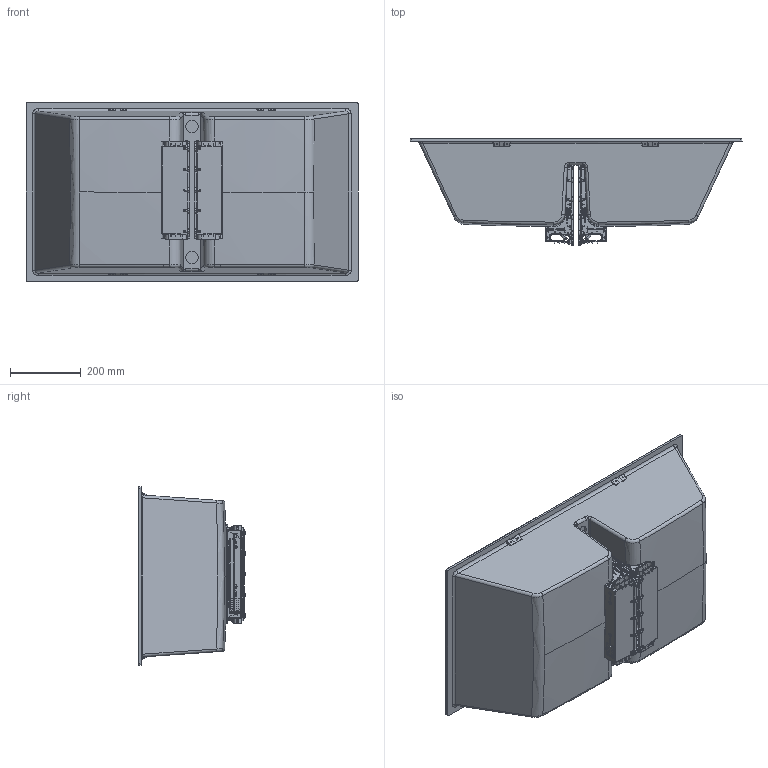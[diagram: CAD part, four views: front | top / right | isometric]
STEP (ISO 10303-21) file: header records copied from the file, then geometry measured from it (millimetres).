
FILE_DESCRIPTION (( 'STEP AP203' ), '1' );
FILE_NAME ('3d_Dogma_90.STEP', '2022-05-06T15:18:00', ( '' ), ( '' ), 'SwSTEP 2.0', 'SolidWorks 2021', '' );
FILE_SCHEMA (( 'CONFIG_CONTROL_DESIGN' ));
Length unit declared in the file: millimetre
Products named in the file (14): bicchierino; perno pallina; pomello; TP_Patent Elleci_borchie; GrigliettaSup5; vitone 60mm; assieme griglia2; Corpo_SMART; DOGMA_smart; CestelloInf3; guarnizione; 20180220 06265; 20180220 06266_neutro; 3d_Dogma_90
Assembly tree (16 placements, depth 3):
  3d_Dogma_90
    DOGMA_smart
    assieme griglia2  x2
      bicchierino
      guarnizione
      perno pallina
      pomello
      GrigliettaSup5
      vitone 60mm
      CestelloInf3
    Corpo_SMART  x2
    TP_Patent Elleci_borchie  x2
      20180220 06265
      20180220 06266_neutro
Bounding box: 941.12 x 303.91 x 506.12 mm (x, y, z)
Volume: 8991916.4 mm3; surface area: 2718954 mm2
Topology: 21 solids, 21 shells, 7659 faces, 20036 edges, 12604 vertices
Faces by surface type: plane 3047, bspline 2270, cylinder 1856, cone 254, torus 178, sphere 54
Entity records: 195678 total; most frequent: CARTESIAN_POINT 106472, ORIENTED_EDGE 21192, DIRECTION 13211, EDGE_CURVE 10596, VERTEX_POINT 6712, VECTOR 4553, LINE 4553, EDGE_LOOP 4434
